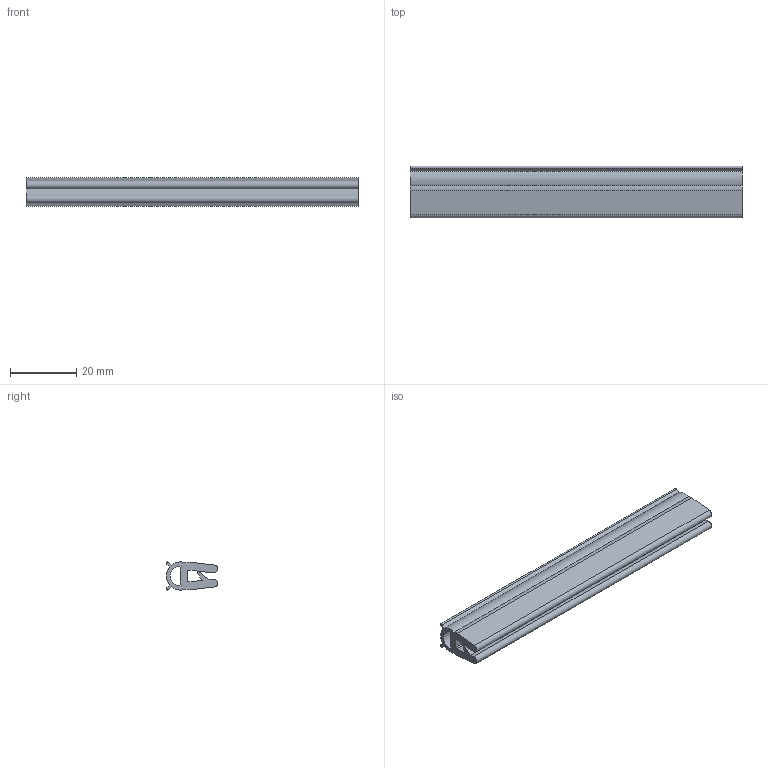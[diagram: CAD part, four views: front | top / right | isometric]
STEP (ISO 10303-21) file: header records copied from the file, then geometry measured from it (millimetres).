
FILE_DESCRIPTION( ( 'STEP AP203' ), '1' );
FILE_NAME( 'C:/Temp/Ganter_Step_05_03_2020/data/3_3/gn2180/Edge protection seal profile GN 2180-EPDM-15,5-A-20.stp', '2020-03-12T12:04:04', ( 'License CC BY-ND 4.0' ), ( 'CADENAS' ), ' ', 'PARTsolutions', ' ' );
FILE_SCHEMA( ( 'CONFIG_CONTROL_DESIGN' ) );
Length unit declared in the file: millimetre
Products named in the file (1): _Edge protection seal profile GN 2180-EPDM-15,5-A-20
Bounding box: 100 x 15.5 x 8.5 mm (x, y, z)
Volume: 8130.4 mm3; surface area: 8906.6 mm2
Topology: 1 solids, 1 shells, 30 faces, 84 edges, 56 vertices
Faces by surface type: cylinder 15, plane 15
Entity records: 1026 total; most frequent: DIRECTION 176, CARTESIAN_POINT 171, ORIENTED_EDGE 168, EDGE_CURVE 84, AXIS2_PLACEMENT_3D 61, VERTEX_POINT 56, LINE 54, VECTOR 54
